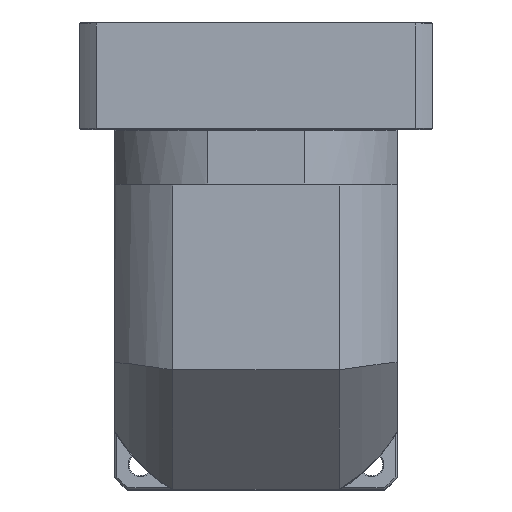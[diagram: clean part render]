
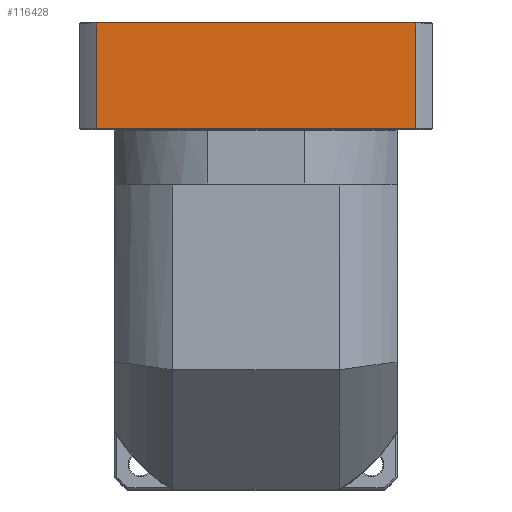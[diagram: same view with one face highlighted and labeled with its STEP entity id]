
A CAD part, top view. The second image highlights one B-rep face of the part: STEP entity #116428.
In plain terms, the highlighted planar face has unit normal (0, 0, 1).
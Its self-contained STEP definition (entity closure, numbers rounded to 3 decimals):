
#1499 = VECTOR ( 'NONE', #115299, 1000. ) ;
#1585 = EDGE_CURVE ( 'NONE', #93969, #129509, #85074, .T. ) ;
#2216 = ORIENTED_EDGE ( 'NONE', *, *, #129466, .T. ) ;
#3732 = CARTESIAN_POINT ( 'NONE',  ( -4.62, 175.351, 63.011 ) ) ;
#3885 = VERTEX_POINT ( 'NONE', #42504 ) ;
#6109 = LINE ( 'NONE', #91670, #108967 ) ;
#7075 = LINE ( 'NONE', #95482, #76370 ) ;
#18517 = DIRECTION ( 'NONE',  ( 0., -1., 0. ) ) ;
#28457 = VERTEX_POINT ( 'NONE', #59818 ) ;
#30142 = DIRECTION ( 'NONE',  ( 1., 0., 0. ) ) ;
#42504 = CARTESIAN_POINT ( 'NONE',  ( -165.605, 228.351, 63.011 ) ) ;
#44404 = EDGE_CURVE ( 'NONE', #3885, #93969, #6109, .T. ) ;
#47460 = ORIENTED_EDGE ( 'NONE', *, *, #1585, .F. ) ;
#47512 = EDGE_CURVE ( 'NONE', #28457, #3885, #7075, .T. ) ;
#58493 = PLANE ( 'NONE',  #125590 ) ;
#59818 = CARTESIAN_POINT ( 'NONE',  ( -165.605, 175.351, 63.011 ) ) ;
#61037 = ORIENTED_EDGE ( 'NONE', *, *, #44404, .F. ) ;
#61629 = ORIENTED_EDGE ( 'NONE', *, *, #47512, .F. ) ;
#62826 = CARTESIAN_POINT ( 'NONE',  ( -4.62, -167.955, 63.011 ) ) ;
#70787 = FACE_OUTER_BOUND ( 'NONE', #126468, .T. ) ;
#74385 = DIRECTION ( 'NONE',  ( 0., 1., 0. ) ) ;
#76370 = VECTOR ( 'NONE', #74385, 1000. ) ;
#85074 = LINE ( 'NONE', #62826, #1499 ) ;
#91670 = CARTESIAN_POINT ( 'NONE',  ( 3.887, 228.351, 63.011 ) ) ;
#93969 = VERTEX_POINT ( 'NONE', #95623 ) ;
#95482 = CARTESIAN_POINT ( 'NONE',  ( -165.605, 228.851, 63.011 ) ) ;
#95623 = CARTESIAN_POINT ( 'NONE',  ( -4.62, 228.351, 63.011 ) ) ;
#97054 = LINE ( 'NONE', #115999, #132274 ) ;
#100244 = DIRECTION ( 'NONE',  ( 0., 0., -1. ) ) ;
#108967 = VECTOR ( 'NONE', #30142, 1000. ) ;
#115299 = DIRECTION ( 'NONE',  ( 0., -1., 0. ) ) ;
#115561 = DIRECTION ( 'NONE',  ( 1., 0., 0. ) ) ;
#115999 = CARTESIAN_POINT ( 'NONE',  ( 3.887, 175.351, 63.011 ) ) ;
#116428 = ADVANCED_FACE ( 'NONE', ( #70787 ), #58493, .F. ) ;
#125590 = AXIS2_PLACEMENT_3D ( 'NONE', #130179, #100244, #18517 ) ;
#126468 = EDGE_LOOP ( 'NONE', ( #61629, #2216, #47460, #61037 ) ) ;
#129466 = EDGE_CURVE ( 'NONE', #28457, #129509, #97054, .T. ) ;
#129509 = VERTEX_POINT ( 'NONE', #3732 ) ;
#130179 = CARTESIAN_POINT ( 'NONE',  ( 3.887, 228.851, 63.011 ) ) ;
#132274 = VECTOR ( 'NONE', #115561, 1000. ) ;
